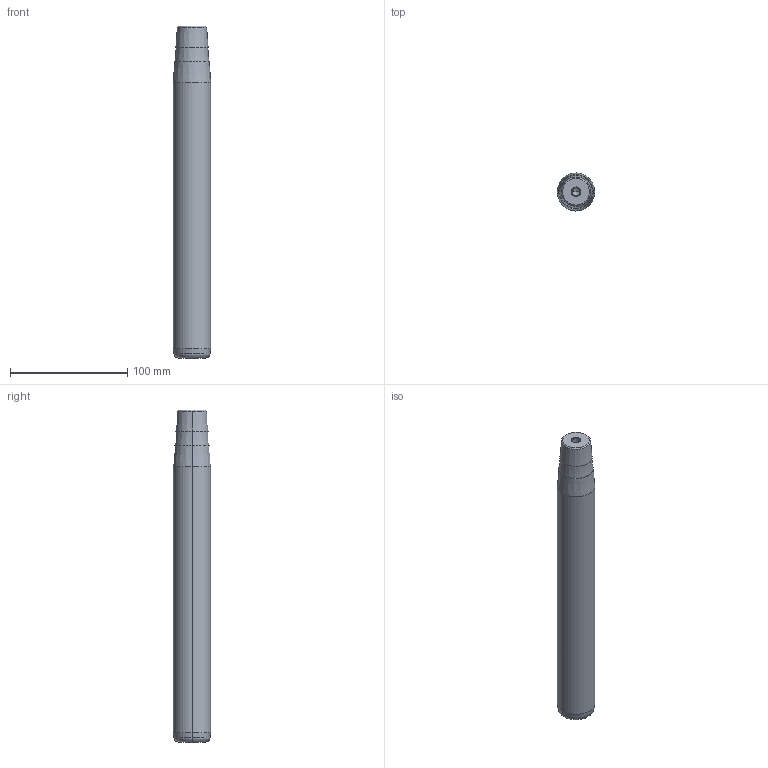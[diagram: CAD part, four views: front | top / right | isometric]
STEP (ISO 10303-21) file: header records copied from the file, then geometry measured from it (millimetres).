
FILE_DESCRIPTION(('CATIA V5 STEP Exchange'),'2;1');
FILE_NAME('C:\Users\Utente\Desktop\IO LAVORO\3D X SITO CF\X SITO\722\722-32x250x283.stp','2021-01-08T16:08:14+00:00',('none'),('none'),'CATIA Version 5 Release 20 GA (IN-10)','CATIA V5 STEP AP203','none');
FILE_SCHEMA(('CONFIG_CONTROL_DESIGN'));
Length unit declared in the file: millimetre
Products named in the file (1): 722-32x250x283
Bounding box: 32 x 32 x 283 mm (x, y, z)
Volume: 216691.1 mm3; surface area: 30025 mm2
Topology: 1 solids, 1 shells, 32 faces, 66 edges, 34 vertices
Faces by surface type: cone 22, cylinder 6, plane 2, torus 2
Entity records: 854 total; most frequent: CARTESIAN_POINT 175, DIRECTION 124, ORIENTED_EDGE 124, AXIS2_PLACEMENT_3D 65, EDGE_CURVE 62, EDGE_LOOP 34, VERTEX_POINT 34, ADVANCED_FACE 32
